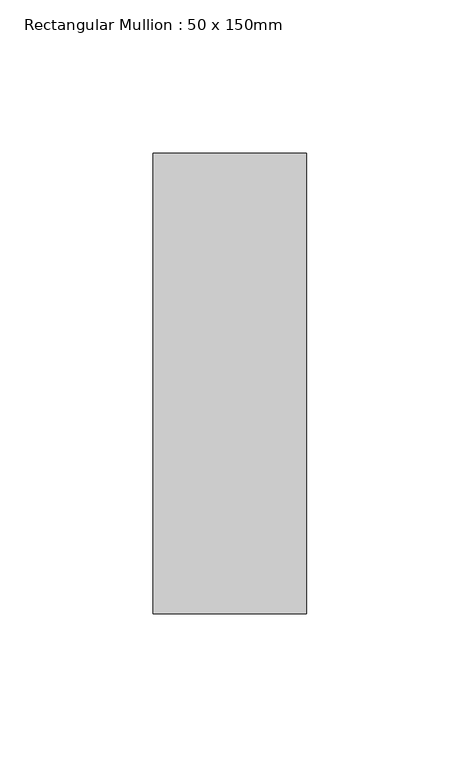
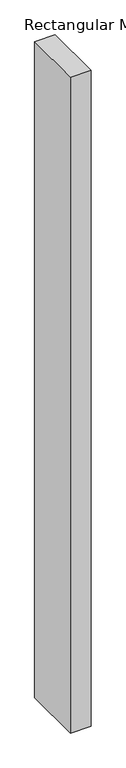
"""IFC4 building model written with IfcOpenShell, lengths in millimetres: member geometry, Rectangular Mullion : 50 x 150mm."""

from ifc_helpers import new_model, si_unit, frame, origin, place, context, project, spatial, polyline, outline, extrude, source, transform, mapped, element, save


def rectangular_mullion_50_x_150mm_1a41200d(model_context):
    return source(origin(), model_context, "Body", "SweptSolid", [
        extrude(outline(polyline([(25.0, 75.0), (25.0, -75.0), (-25.0, -75.0), (-25.0, 75.0), (25.0, 75.0)])), frame((0.0, 0.0, -1686.1519341), z_axis=(0.0, 0.0, 1.0), x_axis=(1.0, 0.0, 0.0)), (0.0, 0.0, 1.0), 1686.1519341),
    ])


if __name__ == "__main__":
    model = new_model("IFC4")
    model_context = context("Model", 3, world=origin())
    ifc_project = project(units=[si_unit("LENGTHUNIT", "METRE", prefix="MILLI")], contexts=[model_context])
    site = spatial("IfcSite", under=ifc_project)
    building = spatial("IfcBuilding", under=site)
    placement = place(None, origin())
    rectangular_mullion_50_x_150mm_shape = rectangular_mullion_50_x_150mm_1a41200d(model_context)
    element("IfcMember", 1, ObjectType="Rectangular Mullion : 50 x 150mm", at=placement, inside=building, context=model_context, shape_type="MappedRepresentation", body=[
        mapped(rectangular_mullion_50_x_150mm_shape, transform((0.0, 0.0, 0.0), x_axis=(1.0, 0.0, 0.0), y_axis=(0.0, 1.0, 0.0), z_axis=(0.0, 0.0, 1.0))),
    ])
    save(model, "model.ifc")
